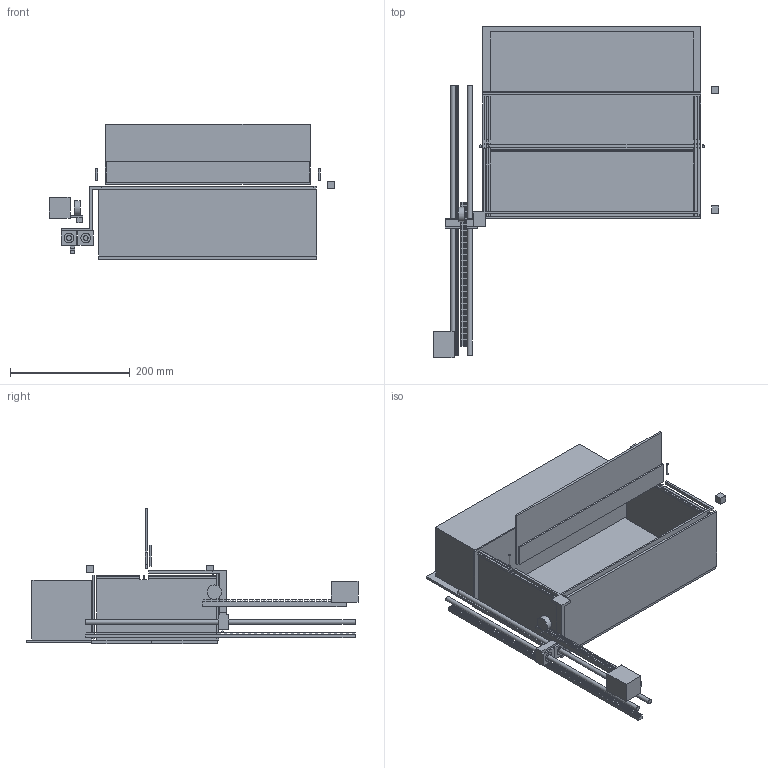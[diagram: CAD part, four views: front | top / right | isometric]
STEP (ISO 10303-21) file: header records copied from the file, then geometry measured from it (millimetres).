
FILE_DESCRIPTION(('FreeCAD Model'),'2;1');
FILE_NAME('Open CASCADE Shape Model','2026-10-19T11:24:48',('FreeCAD'),( 'FreeCAD'),'Open CASCADE STEP processor 7.8','FreeCAD','Unknown');
FILE_SCHEMA(('AUTOMOTIVE_DESIGN { 1 0 10303 214 1 1 1 1 }'));
Length unit declared in the file: millimetre
Products named in the file (1): Open CASCADE STEP translator 7.8 12
Bounding box: 477.5 x 555 x 226 mm (x, y, z)
Volume: 4920950.3 mm3; surface area: 933339.7 mm2
Topology: 29 solids, 29 shells, 1393 faces, 4002 edges, 2668 vertices
Faces by surface type: plane 1382, cylinder 11
Full cylindrical faces by diameter (mm): 4 x2, 8 x2, 8.5 x2, 16 x4, 24 x1
Entity records: 44608 total; most frequent: CARTESIAN_POINT 8064, ORIENTED_EDGE 8004, DIRECTION 6812, EDGE_CURVE 4002, LINE 3980, VECTOR 3980, VERTEX_POINT 2668, AXIS2_PLACEMENT_3D 1416
